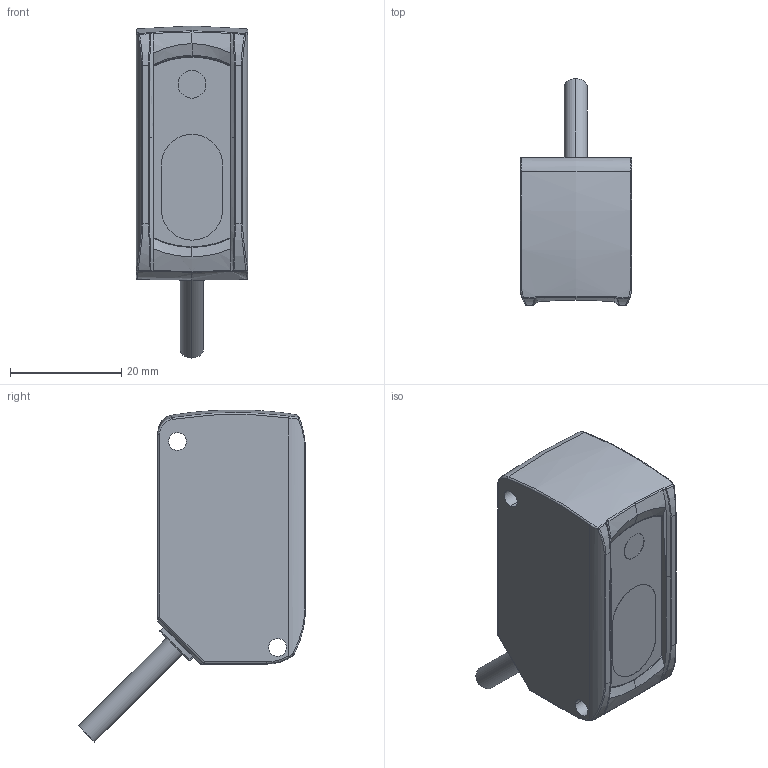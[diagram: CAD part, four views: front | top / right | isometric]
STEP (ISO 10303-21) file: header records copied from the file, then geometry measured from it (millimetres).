
FILE_DESCRIPTION (( 'STEP AP203' ), '1' );
FILE_NAME ('OSM41-shixin.STEP', '2021-11-29T06:54:42', ( '' ), ( '' ), 'SwSTEP 2.0', 'SolidWorks 2014', '' );
FILE_SCHEMA (( 'CONFIG_CONTROL_DESIGN' ));
Length unit declared in the file: millimetre
Products named in the file (2): OSM41-shixin
Bounding box: 20 x 40.75 x 59.63 mm (x, y, z)
Volume: 21927.7 mm3; surface area: 6210.7 mm2
Topology: 1 solids, 1 shells, 204 faces, 499 edges, 299 vertices
Faces by surface type: bspline 78, cylinder 53, plane 50, sphere 19, torus 3, cone 1
Entity records: 11710 total; most frequent: CARTESIAN_POINT 7334, ORIENTED_EDGE 982, DIRECTION 724, EDGE_CURVE 491, VERTEX_POINT 297, AXIS2_PLACEMENT_3D 279, EDGE_LOOP 216, FACE_OUTER_BOUND 204
